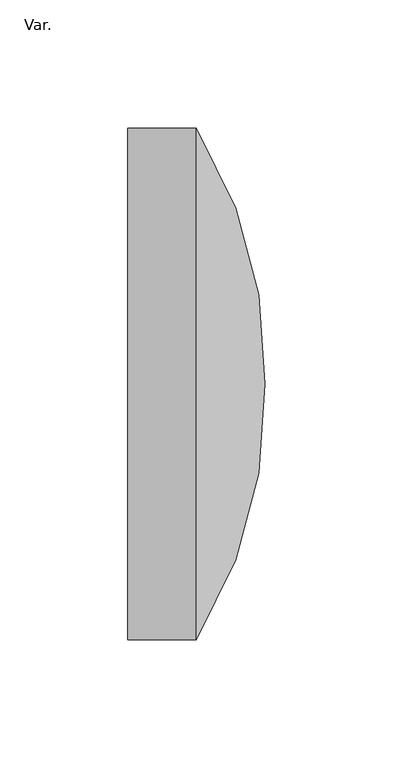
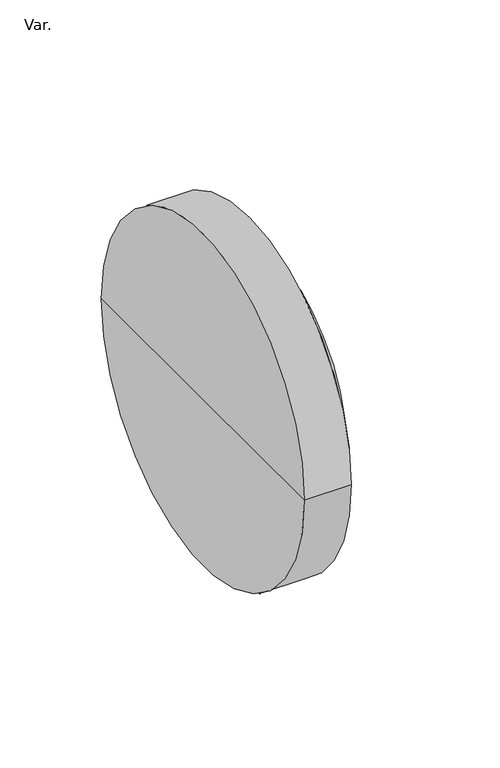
"""IFC4 building model written with IfcOpenShell, lengths in millimetres: pipe fitting geometry, PIF_HDPE end cap round_Akatherm : Var.."""

import ifcopenshell
import ifcopenshell.guid

model = None  # the IFC model being written
_history = None  # IfcOwnerHistory: only IFC2X3 demands one
_inside = {}  # id of a spatial element -> (the spatial element, [elements in it])
_under = {}  # id of a project, library or spatial element -> (it, [spatial elements below it])
_declared = {}  # id of a project -> (the project, [libraries it declares])
_typed = {}  # id of a type object -> (the type object, [elements of that type])
_made_of = {}  # id of a material, layer set ... -> (it, [elements and type objects made of it])


def new_model(schema):
    """Start an empty IFC model of exactly this schema.

    Asked for "IFC4X3", IfcOpenShell would pick the latest addendum, in which some entities
    have other attributes; the version numbers below select the first issue.
    IFC2X3 requires an IfcOwnerHistory on every rooted entity: one is made here for all.
    """
    global model, _history
    if schema == "IFC4X3":
        model = ifcopenshell.file(schema_version=(4, 3, 0, 0))
    else:
        model = ifcopenshell.file(schema=schema)
    _inside.clear()
    _under.clear()
    _declared.clear()
    _typed.clear()
    _made_of.clear()
    _history = None
    if model.schema == "IFC2X3":
        org = make("IfcOrganization", Name="unknown")
        user = make(
            "IfcPersonAndOrganization",
            ThePerson=make("IfcPerson", FamilyName="unknown"),
            TheOrganization=org,
        )
        app = make(
            "IfcApplication",
            ApplicationDeveloper=org,
            Version="unknown",
            ApplicationFullName="unknown",
            ApplicationIdentifier="unknown",
        )
        _history = make(
            "IfcOwnerHistory",
            OwningUser=user,
            OwningApplication=app,
            ChangeAction="ADDED",
            CreationDate=0,
        )
    return model


def make(cls, **values):
    """One entity of the class cls with the attributes given. An attribute that is None is left unset."""
    return model.create_entity(
        cls, **{name: value for name, value in values.items() if value is not None}
    )


def rooted(cls, **values):
    """An entity with a GlobalId (a new one), such as an element, a storey or a relation."""
    return make(cls, GlobalId=ifcopenshell.guid.new(), OwnerHistory=_history, **values)


def si_unit(unit_type, name, prefix=None):
    """IfcSIUnit, for example si_unit("LENGTHUNIT", "METRE", prefix="MILLI")."""
    return make("IfcSIUnit", UnitType=unit_type, Prefix=prefix, Name=name)


def assignment(units):
    """IfcUnitAssignment: the units of a project."""
    return None if units is None else make("IfcUnitAssignment", Units=units)


def point(xyz):
    """IfcCartesianPoint."""
    return None if xyz is None else make("IfcCartesianPoint", Coordinates=xyz)


def direction(xyz):
    """IfcDirection."""
    return None if xyz is None else make("IfcDirection", DirectionRatios=xyz)


def frame(location, z_axis=None, x_axis=None):
    """IfcAxis2Placement3D, a coordinate frame: its origin and axes. An axis left out is left unset."""
    return make(
        "IfcAxis2Placement3D",
        Location=point(location),
        Axis=direction(z_axis),
        RefDirection=direction(x_axis),
    )


def origin():
    """The frame at (0, 0, 0) with its axes left unset."""
    return frame((0.0, 0.0, 0.0))


def place(relative_to, where):
    """IfcLocalPlacement: puts the frame where relative to a parent placement (None: the world)."""
    return make(
        "IfcLocalPlacement", PlacementRelTo=relative_to, RelativePlacement=where
    )


def context(
    kind, dimensions, precision=None, world=None, true_north=None, identifier=None
):
    """IfcGeometricRepresentationContext, for example the 3D "Model" context."""
    return make(
        "IfcGeometricRepresentationContext",
        ContextIdentifier=identifier,
        ContextType=kind,
        CoordinateSpaceDimension=dimensions,
        Precision=precision,
        WorldCoordinateSystem=world,
        TrueNorth=true_north,
    )


def project(units=None, contexts=None):
    """IfcProject with its units and contexts."""
    return rooted(
        "IfcProject",
        Name="project",
        RepresentationContexts=contexts,
        UnitsInContext=assignment(units),
    )


def spatial(cls, under=None, at=None, **own):
    """A site, building, storey or space (cls), placed at a placement, below another one or the project."""
    s = rooted(cls, ObjectPlacement=at, **own)
    if under is not None:
        _under.setdefault(under.id(), (under, []))[1].append(s)
    return s


def circle_curve(where, radius):
    """IfcCircle in the frame where."""
    return make("IfcCircle", Position=where, Radius=radius)


def ellipse_curve(where, semi_axis1, semi_axis2):
    """IfcEllipse in the frame where."""
    return make(
        "IfcEllipse", Position=where, SemiAxis1=semi_axis1, SemiAxis2=semi_axis2
    )


def trimmed(basis, trim1, trim2, sense, master):
    """IfcTrimmedCurve: the piece of a basis curve between two trims."""
    return make(
        "IfcTrimmedCurve",
        BasisCurve=basis,
        Trim1=trim1,
        Trim2=trim2,
        SenseAgreement=sense,
        MasterRepresentation=master,
    )


def shape(context_of_items, identifier, shape_type, items):
    """IfcShapeRepresentation: the items that make up one representation, for example the "Body"."""
    return make(
        "IfcShapeRepresentation",
        ContextOfItems=context_of_items,
        RepresentationIdentifier=identifier,
        RepresentationType=shape_type,
        Items=items,
    )


def source(mapping_origin, context_of_items, identifier, shape_type, items):
    """IfcRepresentationMap: a shape defined once, which mapped items show again and again."""
    return make(
        "IfcRepresentationMap",
        MappingOrigin=mapping_origin,
        MappedRepresentation=shape(context_of_items, identifier, shape_type, items),
    )


def transform(
    local_origin,
    x_axis=None,
    y_axis=None,
    z_axis=None,
    scale=None,
    scale2=None,
    scale3=None,
    uniform=True,
):
    """IfcCartesianTransformationOperator3D, or its non-uniform kind. x_axis, y_axis, z_axis: its Axis1, 2, 3."""
    if uniform:
        return make(
            "IfcCartesianTransformationOperator3D",
            Axis1=direction(x_axis),
            Axis2=direction(y_axis),
            LocalOrigin=point(local_origin),
            Scale=scale,
            Axis3=direction(z_axis),
        )
    return make(
        "IfcCartesianTransformationOperator3DnonUniform",
        Axis1=direction(x_axis),
        Axis2=direction(y_axis),
        LocalOrigin=point(local_origin),
        Scale=scale,
        Axis3=direction(z_axis),
        Scale2=scale2,
        Scale3=scale3,
    )


def mapped(mapping_source, mapping_target):
    """IfcMappedItem: shows the shape of a source again, moved by a transform."""
    return make(
        "IfcMappedItem", MappingSource=mapping_source, MappingTarget=mapping_target
    )


def made_of(thing, what):
    """Note that an element or type object is made of a material, layer set ...; save() writes the relation."""
    if what is not None:
        _made_of.setdefault(what.id(), (what, []))[1].append(thing)
    return thing


def element(
    cls,
    number,
    at=None,
    inside=None,
    cuts=None,
    type_object=None,
    material=None,
    context=None,
    identifier="Body",
    shape_type=None,
    held_by="IfcProductDefinitionShape",
    body=None,
    shapes=None,
    **own,
):
    """One element of the class cls, such as IfcWall. Its Tag is "e" and its number.

    at: its placement. inside: the storey or other place that contains it. cuts: it is an
    opening in that element (IfcRelVoidsElement). A single representation is given by context,
    identifier, shape_type and body (its items); several are given by shapes. held_by: the class
    of the entity that holds the representations. save() writes the other relations.
    """
    e = rooted(cls, Tag="e%d" % number, ObjectPlacement=at, **own)
    if body is not None:
        shapes = [shape(context, identifier, shape_type, body)]
    if shapes is not None:
        e.Representation = make(held_by, Representations=shapes)
    if inside is not None:
        _inside.setdefault(inside.id(), (inside, []))[1].append(e)
    if cuts is not None:
        rooted(
            "IfcRelVoidsElement", RelatingBuildingElement=cuts, RelatedOpeningElement=e
        )
    if type_object is not None:
        _typed.setdefault(type_object.id(), (type_object, []))[1].append(e)
    return made_of(e, material)


def aggregate(whole, parts):
    """IfcRelAggregates: a whole, such as a stair, and the parts it consists of."""
    return rooted("IfcRelAggregates", RelatingObject=whole, RelatedObjects=parts)


def save(model, path):
    """Write the relations noted so far, then the file.

    IfcRelAggregates (storeys below a building ...), IfcRelContainedInSpatialStructure (elements
    in a storey), IfcRelDefinesByType, IfcRelAssociatesMaterial and IfcRelDeclares: one each for
    every whole, place, type object, material and project.
    """
    for whole, parts in _under.values():
        aggregate(whole, parts)
    for where, things in _inside.values():
        rooted(
            "IfcRelContainedInSpatialStructure",
            RelatedElements=things,
            RelatingStructure=where,
        )
    for kind, things in _typed.values():
        rooted("IfcRelDefinesByType", RelatedObjects=things, RelatingType=kind)
    for what, things in _made_of.values():
        rooted("IfcRelAssociatesMaterial", RelatedObjects=things, RelatingMaterial=what)
    for by, libraries in _declared.values():
        rooted("IfcRelDeclares", RelatingContext=by, RelatedDefinitions=libraries)
    model.write(path)


def plane_surface(at):
    """IfcPlane: the flat surface through the origin of the frame at, square to its z axis."""
    return make("IfcPlane", Position=at)


def cylinder_surface(at, radius):
    """IfcCylindricalSurface: all points at the distance radius from the z axis of the frame at."""
    return make("IfcCylindricalSurface", Position=at, Radius=radius)


def revolved_surface(curve, axis_point, axis_direction):
    """IfcSurfaceOfRevolution: the curve turned about the line through axis_point along axis_direction."""
    return make(
        "IfcSurfaceOfRevolution",
        SweptCurve=make("IfcArbitraryOpenProfileDef", ProfileType="CURVE", Curve=curve),
        AxisPosition=make("IfcAxis1Placement", Location=point(axis_point), Axis=direction(axis_direction)),
    )


def advanced_brep(points, edges, surfaces, faces):
    """IfcAdvancedBrep: a solid bounded by faces that lie on surfaces and meet in shared edges.

    An edge is (start, end): straight between two places in points (the first is 0);
    or (start, end, curve); or (start, end, curve, False) where it runs against its curve.
    A face is (place in surfaces, loops), or (place, loops, False) where it looks against
    its surface's normal. A loop lists edges by number (the first is 1), with a minus sign
    where the edge is run from its end to its start. The first loop is the outer one.
    """
    corners = [point(p) for p in points]
    vertices = [make("IfcVertexPoint", VertexGeometry=c) for c in corners]
    made = []
    for start, end, *more in edges:
        made.append(
            make(
                "IfcEdgeCurve",
                EdgeStart=vertices[start],
                EdgeEnd=vertices[end],
                EdgeGeometry=more[0] if more else make("IfcPolyline", Points=[corners[start], corners[end]]),
                SameSense=more[1] if len(more) > 1 else True,
            )
        )
    hull = []
    for where, loops, *sense in faces:
        bounds = []
        for j, loop in enumerate(loops):
            ring = [make("IfcOrientedEdge", EdgeElement=made[abs(k) - 1], Orientation=k > 0) for k in loop]
            bounds.append(
                make(
                    "IfcFaceOuterBound" if j == 0 else "IfcFaceBound",
                    Bound=make("IfcEdgeLoop", EdgeList=ring),
                    Orientation=True,
                )
            )
        hull.append(make("IfcAdvancedFace", Bounds=bounds, FaceSurface=surfaces[where], SameSense=sense[0] if sense else True))
    return make("IfcAdvancedBrep", Outer=make("IfcClosedShell", CfsFaces=hull))


def var_e8e01903(model_context):
    return source(origin(), model_context, "Body", "AdvancedBrep", [
        advanced_brep(
        [(-5.2, 0.0, 0.0), (-5.2, 100.0, 0.0), (-5.2, -100.0, 0.0), (21.55, -100.0, 0.0), (21.55, 100.0, 0.0), (48.3, 0.0, 0.0)],
        [
            (0, 1),
            (1, 2, circle_curve(frame((-5.2, 0.0, 0.0), z_axis=(-1.0, 0.0, 0.0), x_axis=(0.0, 1.0, 0.0)), 100.0)),
            (2, 0),
            (2, 1, circle_curve(frame((-5.2, 0.0, 0.0), z_axis=(-1.0, 0.0, 0.0), x_axis=(0.0, 1.0, 0.0)), 100.0)),
            (3, 4, circle_curve(frame((21.55, 0.0, 0.0), z_axis=(1.0, 0.0, 0.0), x_axis=(0.0, 1.0, 0.0)), 100.0)),
            (4, 5, circle_curve(frame((-134.0760822, 4.7922105, 0.0), z_axis=(0.0, 0.0, -1.0), x_axis=(1.0, 0.0, 0.0)), 182.4390327)),
            (5, 3, circle_curve(frame((-134.0760822, -4.7922105, 0.0), z_axis=(0.0, 0.0, -1.0), x_axis=(1.0, 0.0, 0.0)), 182.4390327)),
            (4, 3, circle_curve(frame((21.55, 0.0, 0.0), z_axis=(1.0, 0.0, 0.0), x_axis=(0.0, 1.0, 0.0)), 100.0)),
            (1, 4),
            (3, 2),
        ],
        [
            plane_surface(frame((-5.2, 0.0, 0.0), z_axis=(-1.0, 0.0, 0.0), x_axis=(0.0, 1.0, 0.0))),
            revolved_surface(trimmed(ellipse_curve(frame((-134.0760822, 4.7922105, 0.0), z_axis=(0.0, 0.0, 1.0), x_axis=(1.0, 0.0, 0.0)), 182.4390327, 182.4390327), [point((48.3, 0.0, 0.0))], [point((21.55, 100.0, 0.0))], True, "CARTESIAN"), (-105.8339769, 0.0, 0.0), (-1.0, 0.0, 0.0)),
            cylinder_surface(frame((-105.8339769, 0.0, 0.0), z_axis=(-1.0, 0.0, 0.0), x_axis=(0.0, 1.0, 0.0)), 100.0),
        ],
        [
            (0, [[1, 2, 3]]),
            (0, [[-3, 4, -1]]),
            (1, [[5, 6, 7]]),
            (1, [[8, -7, -6]]),
            (2, [[-2, 9, -5, 10]]),
            (2, [[-4, -10, -8, -9]]),
        ],
    ),
    ])


if __name__ == "__main__":
    model = new_model("IFC4")
    model_context = context("Model", 3, world=origin())
    ifc_project = project(units=[si_unit("LENGTHUNIT", "METRE", prefix="MILLI")], contexts=[model_context])
    site = spatial("IfcSite", under=ifc_project)
    building = spatial("IfcBuilding", under=site)
    placement = place(None, origin())
    var_shape = var_e8e01903(model_context)
    element("IfcPipeFitting", 1, ObjectType="PIF_HDPE end cap round_Akatherm : Var.", at=placement, inside=building, context=model_context, shape_type="MappedRepresentation", body=[
        mapped(var_shape, transform((0.0, 0.0, 0.0), x_axis=(1.0, 0.0, 0.0), y_axis=(0.0, 1.0, 0.0), z_axis=(0.0, 0.0, 1.0))),
    ])
    save(model, "model.ifc")
